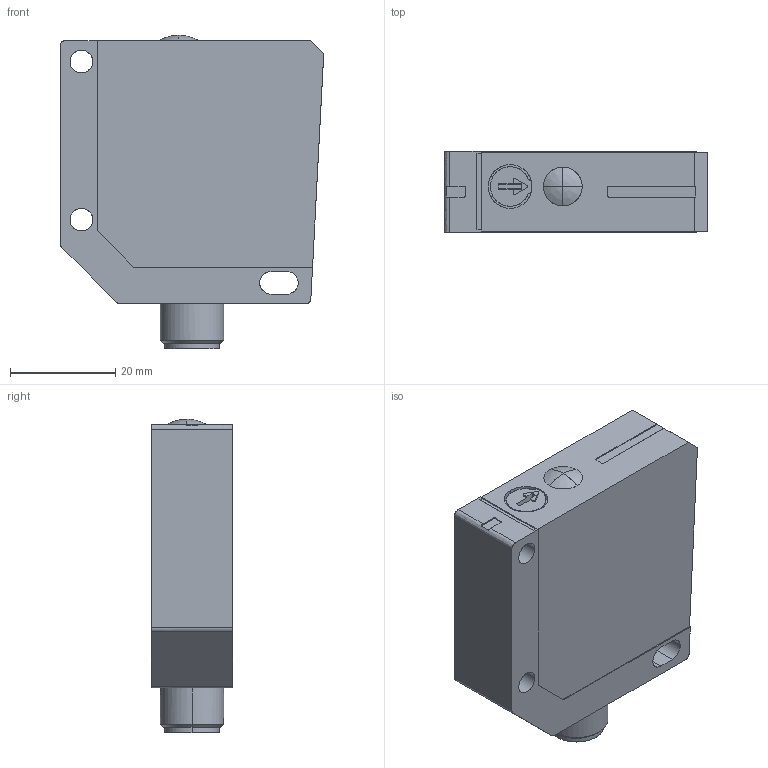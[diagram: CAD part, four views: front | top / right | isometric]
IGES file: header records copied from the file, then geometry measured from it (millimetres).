
Start section: Comment
Global section: file name: xxDM_16_LED_POT_S14.igs; native system:  By UGS Corp.; preprocessor: XPlus GENERIC/IGES 3.0; author: Author; organization: Title; date: 20081103.144202; units: millimetre
Bounding box: 50 x 15.4 x 59.5 mm (x, y, z)
Surface area: 8981.7 mm2 (no closed solid volume)
Topology: 0 solids, 0 shells, 133 faces, 692 edges, 670 vertices
Faces by surface type: bspline 133
